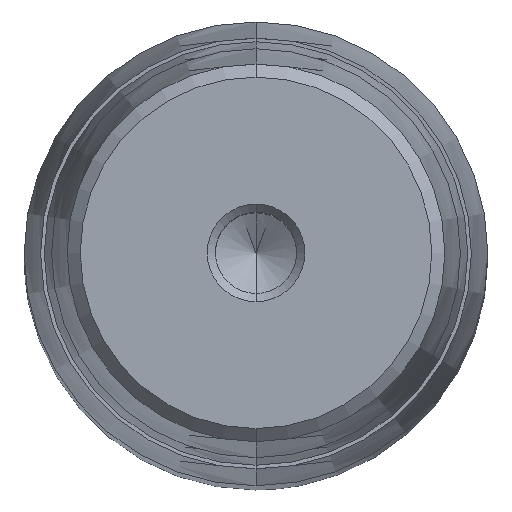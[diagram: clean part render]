
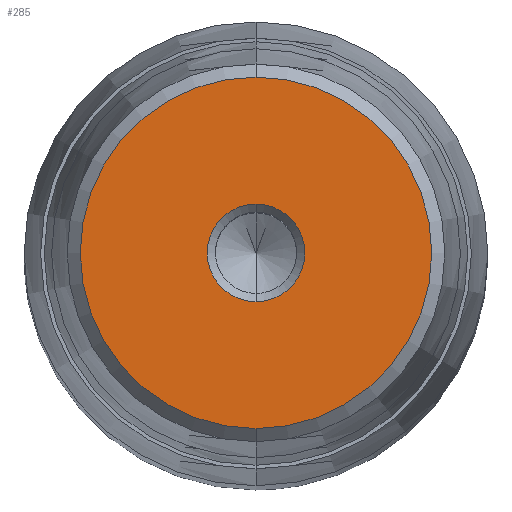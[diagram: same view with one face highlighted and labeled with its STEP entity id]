
A CAD part, top view. The second image highlights one B-rep face of the part: STEP entity #285.
In plain terms, the highlighted planar face has unit normal (0, 0, 1).
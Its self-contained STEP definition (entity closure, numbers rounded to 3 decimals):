
#164=CARTESIAN_POINT('Axis2P3D Location',(0.,0.,48.)) ;
#168=CARTESIAN_POINT('Vertex',(4.,0.,48.)) ;
#170=CARTESIAN_POINT('Vertex',(0.,-4.,48.)) ;
#173=CARTESIAN_POINT('Axis2P3D Location',(0.,0.,48.)) ;
#177=CARTESIAN_POINT('Vertex',(0.,4.,48.)) ;
#228=CARTESIAN_POINT('Axis2P3D Location',(0.,4.,48.)) ;
#233=CARTESIAN_POINT('Axis2P3D Location',(0.,0.,48.)) ;
#237=CARTESIAN_POINT('Vertex',(0.,14.4,48.)) ;
#239=CARTESIAN_POINT('Vertex',(14.4,0.,48.)) ;
#242=CARTESIAN_POINT('Axis2P3D Location',(0.,0.,48.)) ;
#246=CARTESIAN_POINT('Vertex',(-14.4,0.,48.)) ;
#249=CARTESIAN_POINT('Axis2P3D Location',(0.,0.,48.)) ;
#253=CARTESIAN_POINT('Vertex',(0.,-14.4,48.)) ;
#256=CARTESIAN_POINT('Axis2P3D Location',(0.,0.,48.)) ;
#267=CARTESIAN_POINT('Axis2P3D Location',(0.,0.,48.)) ;
#271=CARTESIAN_POINT('Vertex',(-4.,0.,48.)) ;
#274=CARTESIAN_POINT('Axis2P3D Location',(0.,0.,48.)) ;
#165=DIRECTION('Axis2P3D Direction',(-0.,0.,1.)) ;
#174=DIRECTION('Axis2P3D Direction',(-0.,0.,1.)) ;
#229=DIRECTION('Axis2P3D Direction',(0.,0.,-1.)) ;
#230=DIRECTION('Axis2P3D XDirection',(0.,1.,0.)) ;
#234=DIRECTION('Axis2P3D Direction',(0.,0.,-1.)) ;
#243=DIRECTION('Axis2P3D Direction',(0.,0.,-1.)) ;
#250=DIRECTION('Axis2P3D Direction',(0.,0.,-1.)) ;
#257=DIRECTION('Axis2P3D Direction',(0.,0.,-1.)) ;
#268=DIRECTION('Axis2P3D Direction',(0.,0.,-1.)) ;
#275=DIRECTION('Axis2P3D Direction',(0.,0.,-1.)) ;
#166=AXIS2_PLACEMENT_3D('Circle Axis2P3D',#164,#165,$) ;
#175=AXIS2_PLACEMENT_3D('Circle Axis2P3D',#173,#174,$) ;
#231=AXIS2_PLACEMENT_3D('Plane Axis2P3D',#228,#229,#230) ;
#235=AXIS2_PLACEMENT_3D('Circle Axis2P3D',#233,#234,$) ;
#244=AXIS2_PLACEMENT_3D('Circle Axis2P3D',#242,#243,$) ;
#251=AXIS2_PLACEMENT_3D('Circle Axis2P3D',#249,#250,$) ;
#258=AXIS2_PLACEMENT_3D('Circle Axis2P3D',#256,#257,$) ;
#269=AXIS2_PLACEMENT_3D('Circle Axis2P3D',#267,#268,$) ;
#276=AXIS2_PLACEMENT_3D('Circle Axis2P3D',#274,#275,$) ;
#262=ORIENTED_EDGE('',*,*,#241,.F.) ;
#263=ORIENTED_EDGE('',*,*,#248,.F.) ;
#264=ORIENTED_EDGE('',*,*,#255,.F.) ;
#265=ORIENTED_EDGE('',*,*,#260,.F.) ;
#280=ORIENTED_EDGE('',*,*,#172,.T.) ;
#281=ORIENTED_EDGE('',*,*,#273,.T.) ;
#282=ORIENTED_EDGE('',*,*,#278,.T.) ;
#283=ORIENTED_EDGE('',*,*,#179,.T.) ;
#284=FACE_BOUND('',#279,.T.) ;
#285=ADVANCED_FACE('722-38x224x257',(#266,#284),#232,.F.) ;
#167=CIRCLE('generated circle',#166,4.) ;
#176=CIRCLE('generated circle',#175,4.) ;
#236=CIRCLE('generated circle',#235,14.4) ;
#245=CIRCLE('generated circle',#244,14.4) ;
#252=CIRCLE('generated circle',#251,14.4) ;
#259=CIRCLE('generated circle',#258,14.4) ;
#270=CIRCLE('generated circle',#269,4.) ;
#277=CIRCLE('generated circle',#276,4.) ;
#172=EDGE_CURVE('',#169,#171,#167,.F.) ;
#179=EDGE_CURVE('',#178,#169,#176,.F.) ;
#241=EDGE_CURVE('',#238,#240,#236,.T.) ;
#248=EDGE_CURVE('',#247,#238,#245,.T.) ;
#255=EDGE_CURVE('',#254,#247,#252,.T.) ;
#260=EDGE_CURVE('',#240,#254,#259,.T.) ;
#273=EDGE_CURVE('',#171,#272,#270,.T.) ;
#278=EDGE_CURVE('',#272,#178,#277,.T.) ;
#261=EDGE_LOOP('',(#262,#263,#264,#265)) ;
#279=EDGE_LOOP('',(#280,#281,#282,#283)) ;
#266=FACE_OUTER_BOUND('',#261,.T.) ;
#232=PLANE('Plane',#231) ;
#169=VERTEX_POINT('',#168) ;
#171=VERTEX_POINT('',#170) ;
#178=VERTEX_POINT('',#177) ;
#238=VERTEX_POINT('',#237) ;
#240=VERTEX_POINT('',#239) ;
#247=VERTEX_POINT('',#246) ;
#254=VERTEX_POINT('',#253) ;
#272=VERTEX_POINT('',#271) ;
